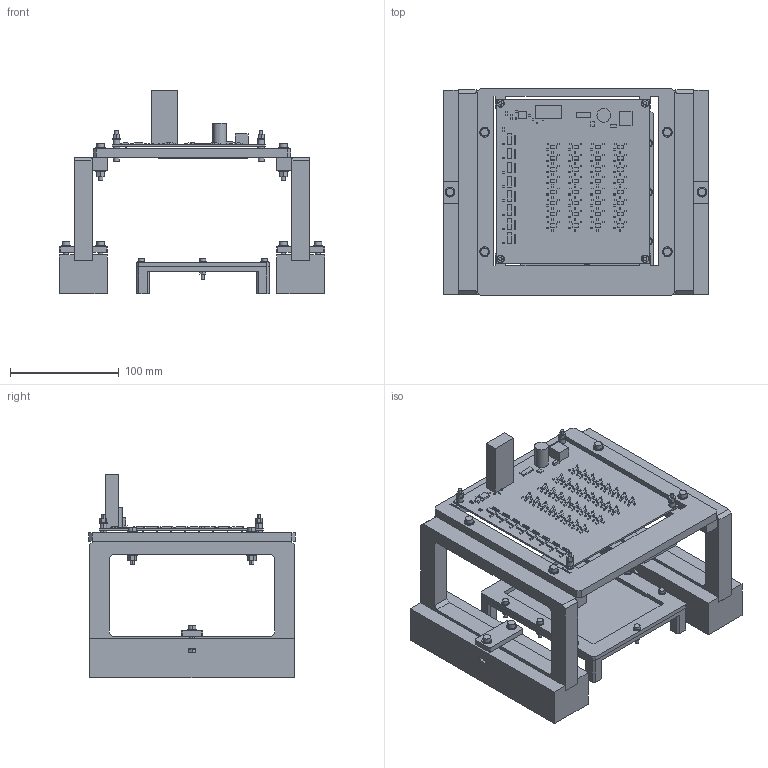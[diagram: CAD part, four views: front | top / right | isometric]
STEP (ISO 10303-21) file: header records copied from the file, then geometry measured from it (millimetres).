
FILE_DESCRIPTION (( 'STEP AP203' ), '1' );
FILE_NAME ('Addons_8x8_film_100mm.step', '2026-10-22T14:10:21', ( '' ), ( '' ), 'SwSTEP 2.0', 'SolidWorks 2025', '' );
FILE_SCHEMA (( 'CONFIG_CONTROL_DESIGN' ));
Length unit declared in the file: millimetre
Products named in the file (20): REF_M4x25_screw; 01_side_trestle; REF_M3_washer; REF_M4_washer; REF_film_4x5in_10um; 04_m3_rear_sleeve_6x5; 03_tx_carrier_8x8; REF_M4_nylock; Addons_8x8_film_100mm; REF_M3x25_screw; REF_M3x16_screw; 08_fixed_riser_30; REF_M4_plain_nut; 11_film_upper_ring; 10_film_lower_stand; REF_M3_nylock; REF_M3_plain_nut; 09_riser_bridge; REF_tx8_electronics; REF_M4x30_screw
Assembly tree (91 placements, depth 2):
  Addons_8x8_film_100mm
    01_side_trestle  x2
    03_tx_carrier_8x8
    REF_tx8_electronics
    04_m3_rear_sleeve_6x5  x4
    REF_M3x25_screw  x4
    REF_M3_washer  x24
    REF_M3_nylock  x4
    REF_M4x30_screw  x4
    REF_M4_washer  x12
    REF_M4_nylock  x4
    08_fixed_riser_30  x2
    09_riser_bridge  x2
    REF_M4x25_screw  x4
    REF_M4_plain_nut  x4
    10_film_lower_stand
    REF_film_4x5in_10um
    11_film_upper_ring
    REF_M3x16_screw  x8
    REF_M3_plain_nut  x8
Bounding box: 244 x 190 x 186.9 mm (x, y, z)
Volume: 1084925.6 mm3; surface area: 342654 mm2
Topology: 416 solids, 416 shells, 2704 faces, 5538 edges, 3692 vertices
Faces by surface type: plane 2198, cylinder 506
Entity records: 59184 total; most frequent: CARTESIAN_POINT 9467, DIRECTION 9304, ORIENTED_EDGE 8676, EDGE_CURVE 4338, VECTOR 3846, LINE 3846, VERTEX_POINT 2892, AXIS2_PLACEMENT_3D 2729
